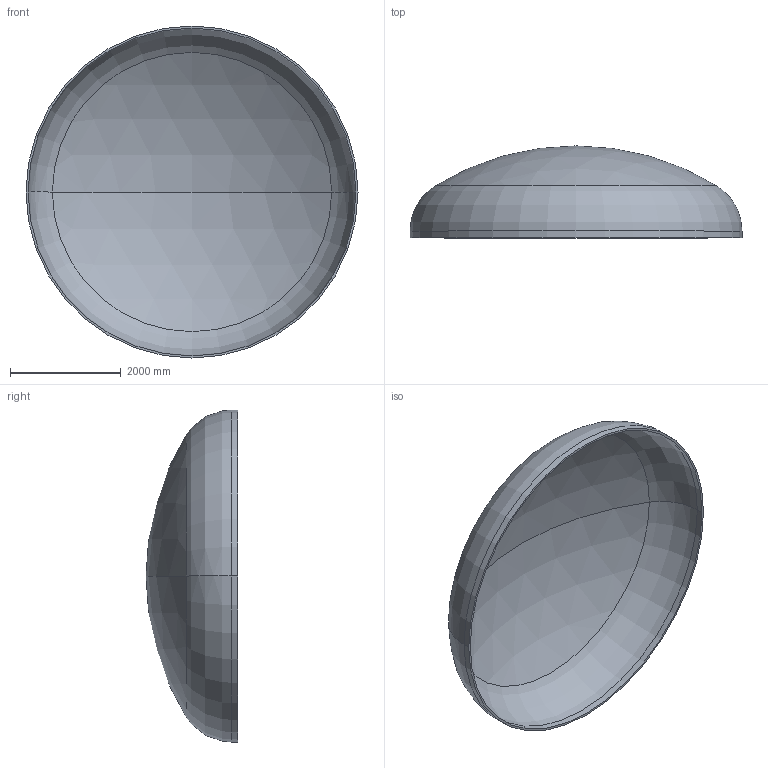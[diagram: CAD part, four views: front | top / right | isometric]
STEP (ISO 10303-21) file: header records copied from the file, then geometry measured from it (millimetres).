
FILE_DESCRIPTION (( 'STEP AP203' ), '1' );
FILE_NAME ('DIN 28013 Korbbogenform_-_Boden DIN 28013 - 6000 x 120 - I - s=38.step', '2016-07-04T10:36:49', ( '' ), ( '' ), 'SwSTEP 2.0', 'SolidWorks 2013', '' );
FILE_SCHEMA (( 'CONFIG_CONTROL_DESIGN' ));
Length unit declared in the file: millimetre
Products named in the file (1): DIN 28013 Korbbogenform_-_Boden DIN 28013 - 6000 x 120 - I - s=38
Bounding box: 6000 x 1661.6 x 6000 mm (x, y, z)
Volume: 1561403647.2 mm3; surface area: 82893878.5 mm2
Topology: 1 solids, 1 shells, 13 faces, 24 edges, 14 vertices
Faces by surface type: torus 4, cylinder 4, sphere 4, plane 1
Entity records: 407 total; most frequent: DIRECTION 72, CARTESIAN_POINT 52, ORIENTED_EDGE 48, AXIS2_PLACEMENT_3D 34, EDGE_CURVE 24, CIRCLE 20, EDGE_LOOP 14, VERTEX_POINT 14
